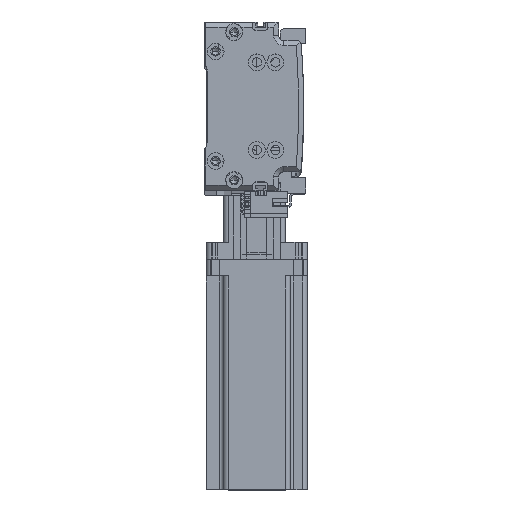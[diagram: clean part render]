
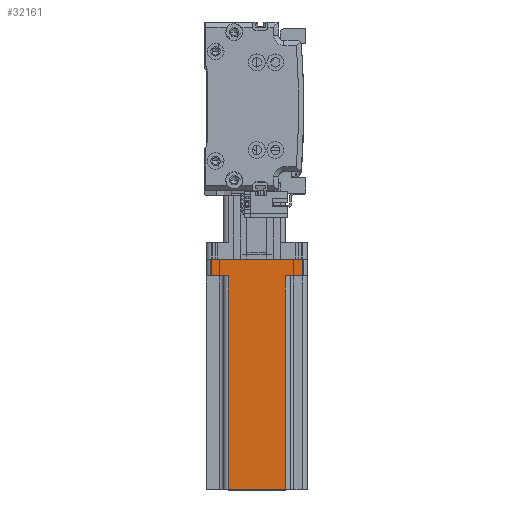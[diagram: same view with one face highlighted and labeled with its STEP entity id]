
A CAD part, top view. The second image highlights one B-rep face of the part: STEP entity #32161.
In plain terms, the highlighted planar face has unit normal (0, 0, 1) as drawn and (0, 1, 0) by its records, which use the part's own axes.
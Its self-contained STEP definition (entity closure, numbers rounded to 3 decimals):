
#2501 = VERTEX_POINT ( 'NONE', #37474 ) ;
#2947 = EDGE_LOOP ( 'NONE', ( #48083, #46277, #44710, #47397, #10050, #17684, #3455, #26592 ) ) ;
#3455 = ORIENTED_EDGE ( 'NONE', *, *, #56677, .T. ) ;
#3860 = VECTOR ( 'NONE', #49292, 1000. ) ;
#4483 = VECTOR ( 'NONE', #13516, 1000. ) ;
#7729 = CARTESIAN_POINT ( 'NONE',  ( -20., 30., 10. ) ) ;
#7994 = CARTESIAN_POINT ( 'NONE',  ( -17., 30., 137. ) ) ;
#8752 = VECTOR ( 'NONE', #13885, 1000. ) ;
#8842 = CARTESIAN_POINT ( 'NONE',  ( -27., 30., 137. ) ) ;
#9204 = VECTOR ( 'NONE', #34115, 1000. ) ;
#9223 = CARTESIAN_POINT ( 'NONE',  ( -27., 30., 10. ) ) ;
#10050 = ORIENTED_EDGE ( 'NONE', *, *, #22667, .F. ) ;
#12065 = CARTESIAN_POINT ( 'NONE',  ( -17., 30., 137. ) ) ;
#12317 = EDGE_CURVE ( 'NONE', #44199, #54102, #22404, .T. ) ;
#13516 = DIRECTION ( 'NONE',  ( 0., 0., 1. ) ) ;
#13885 = DIRECTION ( 'NONE',  ( 0., 0., -1. ) ) ;
#14671 = LINE ( 'NONE', #48161, #50004 ) ;
#16191 = LINE ( 'NONE', #7729, #3860 ) ;
#17684 = ORIENTED_EDGE ( 'NONE', *, *, #33405, .T. ) ;
#17788 = EDGE_CURVE ( 'NONE', #33816, #29358, #41324, .T. ) ;
#17934 = VECTOR ( 'NONE', #35421, 1000. ) ;
#18536 = CARTESIAN_POINT ( 'NONE',  ( 20., 30., 10. ) ) ;
#19427 = EDGE_CURVE ( 'NONE', #46400, #54102, #54660, .T. ) ;
#19828 = VECTOR ( 'NONE', #23184, 1000. ) ;
#20536 = DIRECTION ( 'NONE',  ( 0., 0., -1. ) ) ;
#21616 = VERTEX_POINT ( 'NONE', #30368 ) ;
#21727 = CARTESIAN_POINT ( 'NONE',  ( -27., 30., 0. ) ) ;
#22404 = LINE ( 'NONE', #25146, #59146 ) ;
#22667 = EDGE_CURVE ( 'NONE', #21616, #2501, #58048, .T. ) ;
#23184 = DIRECTION ( 'NONE',  ( -1., 0., 0. ) ) ;
#25146 = CARTESIAN_POINT ( 'NONE',  ( 30., 30., 137. ) ) ;
#26539 = PLANE ( 'NONE',  #55593 ) ;
#26592 = ORIENTED_EDGE ( 'NONE', *, *, #17788, .T. ) ;
#26743 = CARTESIAN_POINT ( 'NONE',  ( 30., 30., 137. ) ) ;
#27679 = CARTESIAN_POINT ( 'NONE',  ( -17., 30., 10. ) ) ;
#29315 = CARTESIAN_POINT ( 'NONE',  ( 30., 30., 0. ) ) ;
#29358 = VERTEX_POINT ( 'NONE', #9223 ) ;
#29764 = DIRECTION ( 'NONE',  ( -1., 0., 0. ) ) ;
#30368 = CARTESIAN_POINT ( 'NONE',  ( 27., 30., 10. ) ) ;
#31337 = DIRECTION ( 'NONE',  ( 1., 0., 0. ) ) ;
#31861 = LINE ( 'NONE', #46161, #8752 ) ;
#32118 = EDGE_CURVE ( 'NONE', #29358, #46400, #16191, .T. ) ;
#32161 = ADVANCED_FACE ( 'NONE', ( #39268 ), #26539, .F. ) ;
#33405 = EDGE_CURVE ( 'NONE', #21616, #46668, #31861, .T. ) ;
#33816 = VERTEX_POINT ( 'NONE', #21727 ) ;
#34115 = DIRECTION ( 'NONE',  ( -1., 0., 0. ) ) ;
#35421 = DIRECTION ( 'NONE',  ( 0., 0., 1. ) ) ;
#37215 = CARTESIAN_POINT ( 'NONE',  ( 17., 30., 137. ) ) ;
#37474 = CARTESIAN_POINT ( 'NONE',  ( 17., 30., 10. ) ) ;
#39268 = FACE_OUTER_BOUND ( 'NONE', #2947, .T. ) ;
#41324 = LINE ( 'NONE', #8842, #4483 ) ;
#44199 = VERTEX_POINT ( 'NONE', #37215 ) ;
#44710 = ORIENTED_EDGE ( 'NONE', *, *, #12317, .F. ) ;
#46161 = CARTESIAN_POINT ( 'NONE',  ( 27., 30., 137. ) ) ;
#46277 = ORIENTED_EDGE ( 'NONE', *, *, #19427, .T. ) ;
#46400 = VERTEX_POINT ( 'NONE', #27679 ) ;
#46668 = VERTEX_POINT ( 'NONE', #52222 ) ;
#47397 = ORIENTED_EDGE ( 'NONE', *, *, #53253, .T. ) ;
#48083 = ORIENTED_EDGE ( 'NONE', *, *, #32118, .T. ) ;
#48161 = CARTESIAN_POINT ( 'NONE',  ( 17., 30., 137. ) ) ;
#49292 = DIRECTION ( 'NONE',  ( 1., 0., 0. ) ) ;
#50004 = VECTOR ( 'NONE', #20536, 1000. ) ;
#52222 = CARTESIAN_POINT ( 'NONE',  ( 27., 30., 0. ) ) ;
#53253 = EDGE_CURVE ( 'NONE', #44199, #2501, #14671, .T. ) ;
#54102 = VERTEX_POINT ( 'NONE', #12065 ) ;
#54660 = LINE ( 'NONE', #7994, #17934 ) ;
#55593 = AXIS2_PLACEMENT_3D ( 'NONE', #26743, #58966, #31337 ) ;
#56677 = EDGE_CURVE ( 'NONE', #46668, #33816, #56806, .T. ) ;
#56806 = LINE ( 'NONE', #29315, #9204 ) ;
#58048 = LINE ( 'NONE', #18536, #19828 ) ;
#58966 = DIRECTION ( 'NONE',  ( 0., -1., 0. ) ) ;
#59146 = VECTOR ( 'NONE', #29764, 1000. ) ;
